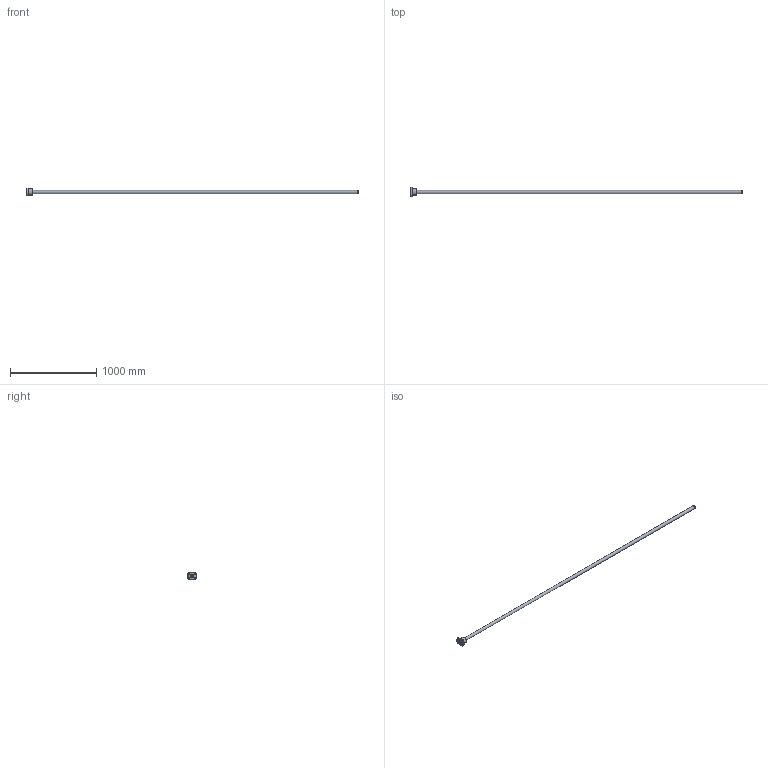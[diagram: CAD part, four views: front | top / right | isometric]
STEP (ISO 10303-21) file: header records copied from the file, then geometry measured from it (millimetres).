
FILE_DESCRIPTION( ( 'STEP AP203' ), ' ' );
FILE_NAME( 'p:/temp/worker_16/3916_4020/app_63_12018011810522445742752818fa3fd_000000_00_00_000000/format_0/BTK 3610V-2.6ZZ+3851LT_37610.stp', '2018-01-18T09:52:25', ( '' ), ( '' ), ' ', 'PARTsolutions', ' ' );
FILE_SCHEMA( ( 'CONFIG_CONTROL_DESIGN' ) );
Length unit declared in the file: millimetre
Products named in the file (3): BTK 3610V-2.6ZZ+3851LT_37610; _BTK 3610V-2.63761 Shaft; _BTK 3610V-2.6ZZ Nut
Assembly tree (2 placements, depth 2):
  BTK 3610V-2.6ZZ+3851LT_37610
    _BTK 3610V-2.63761 Shaft
    _BTK 3610V-2.6ZZ Nut
Bounding box: 3851 x 110 x 82 mm (x, y, z)
Volume: 4170832.3 mm3; surface area: 481581.1 mm2
Topology: 2 solids, 2 shells, 39 faces, 84 edges, 55 vertices
Faces by surface type: cylinder 17, plane 14, cone 8
Full cylindrical faces by diameter (mm): 4.917 x1, 11 x4, 28.8 x2, 36 x4, 43.2 x2, 63 x1, 70 x1
Entity records: 1204 total; most frequent: CARTESIAN_POINT 305, DIRECTION 174, ORIENTED_EDGE 122, AXIS2_PLACEMENT_3D 82, EDGE_LOOP 76, EDGE_CURVE 61, FACE_OUTER_BOUND 54, VERTEX_POINT 51
